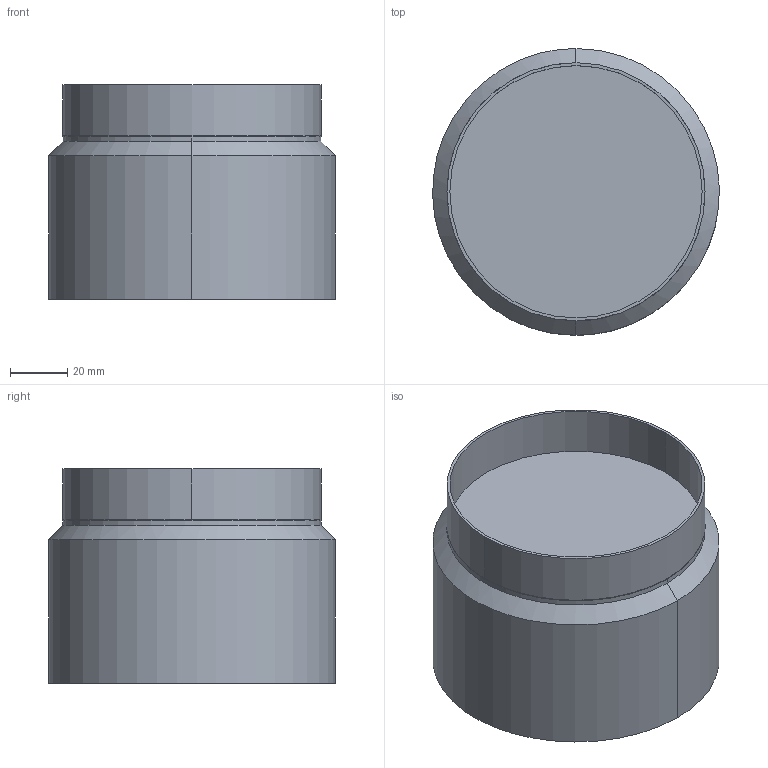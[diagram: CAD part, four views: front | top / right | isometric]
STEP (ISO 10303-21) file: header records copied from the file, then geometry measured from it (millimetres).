
FILE_DESCRIPTION (( 'STEP AP214' ), '1' );
FILE_NAME ('HOREO_T1367 .STEP', '2026-08-06T10:32:27', ( '' ), ( '' ), 'SwSTEP 2.0', 'SolidWorks 2023', '' );
FILE_SCHEMA (( 'AUTOMOTIVE_DESIGN' ));
Length unit declared in the file: millimetre
Products named in the file (1): HOREO_T1367 
Bounding box: 99.95 x 100 x 74.75 mm (x, y, z)
Volume: 245555.6 mm3; surface area: 106887.7 mm2
Topology: 5 solids, 5 shells, 43 faces, 92 edges, 44 vertices
Faces by surface type: bspline 36, cylinder 4, plane 3
Entity records: 1499 total; most frequent: CARTESIAN_POINT 912, ORIENTED_EDGE 152, EDGE_CURVE 76, EDGE_LOOP 44, VERTEX_POINT 44, FACE_OUTER_BOUND 43, ADVANCED_FACE 43, DIRECTION 36
